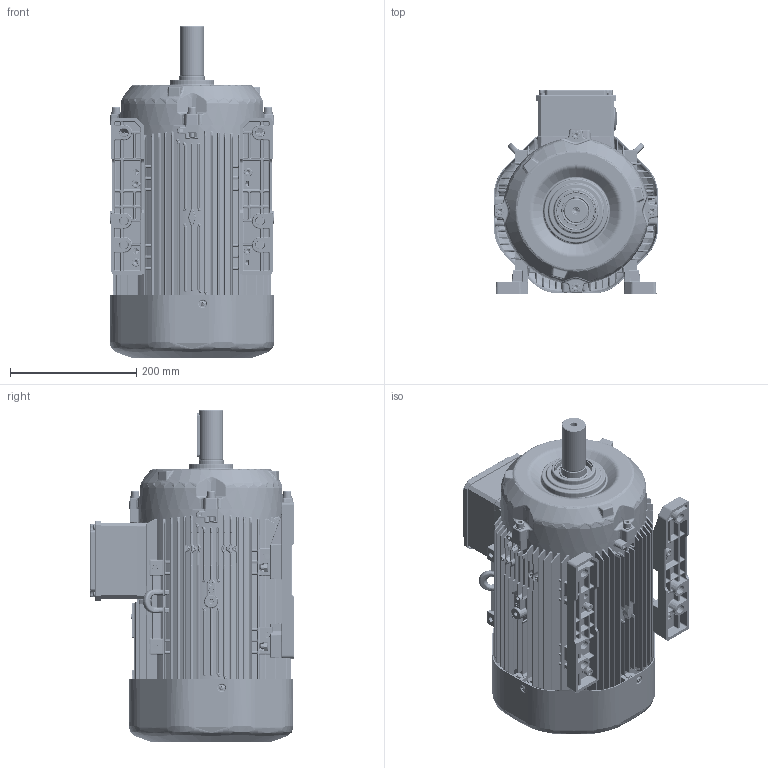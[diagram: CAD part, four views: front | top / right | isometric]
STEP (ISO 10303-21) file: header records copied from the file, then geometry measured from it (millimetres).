
FILE_DESCRIPTION(/* description */ (''),/* implementation_level */ '2;1');
FILE_NAME(/* name */ 'OUTLOOK VIEW QH132 KT B3 SPL.stp',/* time_stamp */ '2021-09-13T13:26:10+03:00',/* author */ (''),/* organization */ (''),/* preprocessor_version */ 'ST-DEVELOPER v16',/* originating_system */ 'SIEMENS PLM Software NX 11.0',/* authorisation */ '');
FILE_SCHEMA (('AUTOMOTIVE_DESIGN { 1 0 10303 214 3 1 1 1 }'));
Products named in the file (1): 26062CE45B9Cd6no
Bounding box: 260.12 x 324.71 x 526.5 mm (x, y, z)
Volume: 4428093.6 mm3; surface area: 1850740.5 mm2
Topology: 79 solids, 81 shells, 14944 faces, 35019 edges, 19429 vertices
Faces by surface type: cylinder 5077, bspline 4126, plane 3029, sphere 1334, torus 832, cone 510, extrusion 36
Full cylindrical faces by diameter (mm): 2.5 x2, 3.5 x2, 4 x4, 4.2 x8, 5.5 x8, 5.6 x1, 6.8 x1, 8 x28, 8.028 x3, 8.477 x2, 8.478 x1, 8.5 x8, 9 x4, 10.5 x1, 13 x12, 15 x2, 30.4 x2, 34.4 x1, 35 x1, 37.4 x1, 37.5 x1, 38 x1, 39.4 x2, 40 x5, 40.2 x1, 40.5 x1, 42.94 x1, 44 x2, 46.5 x1, 52.6 x4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
Entity records: 484978 total; most frequent: CARTESIAN_POINT 169910, ORIENTED_EDGE 66520, DIRECTION 64177, EDGE_CURVE 33260, AXIS2_PLACEMENT_3D 26232, VERTEX_POINT 19210, EDGE_LOOP 16220, ADVANCED_FACE 14943
